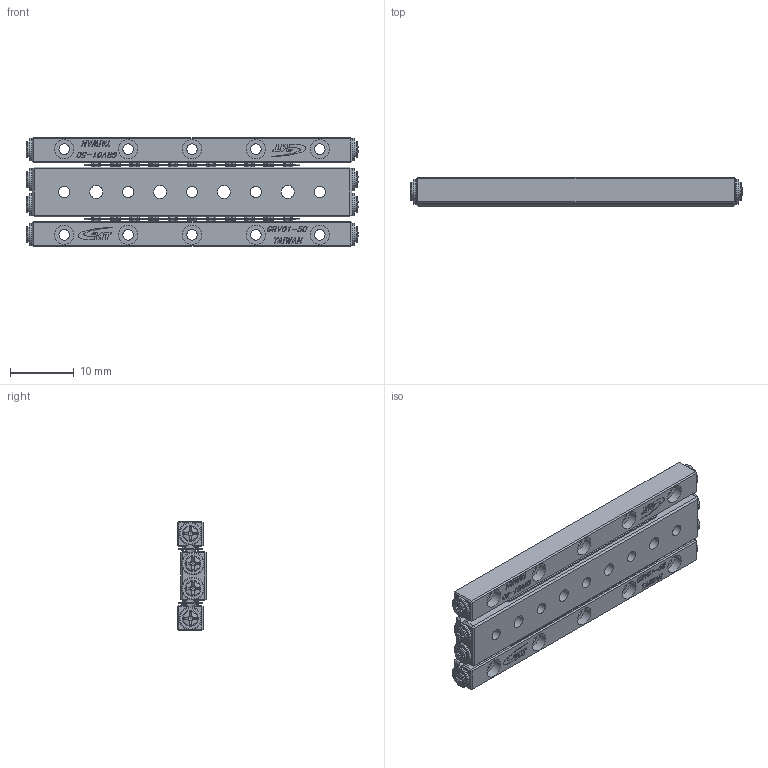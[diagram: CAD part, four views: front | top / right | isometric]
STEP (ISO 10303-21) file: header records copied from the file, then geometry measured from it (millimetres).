
FILE_DESCRIPTION (( 'STEP AP203' ), '1' );
FILE_NAME ('GRD01-50.STEP', '2023-08-09T02:39:13', ( '' ), ( '' ), 'SwSTEP 2.0', 'SolidWorks 2019', '' );
FILE_SCHEMA (( 'CONFIG_CONTROL_DESIGN' ));
Length unit declared in the file: millimetre
Products named in the file (4): GRD01-50-模糊化中軌; GRD01-50; GRV01-50-模糊化軌道; GRV01-50-模糊化保持器組
Assembly tree (5 placements, depth 2):
  GRD01-50
    GRD01-50-模糊化中軌
    GRV01-50-模糊化軌道  x2
    GRV01-50-模糊化保持器組  x2
Bounding box: 51.96 x 4.5 x 17 mm (x, y, z)
Volume: 2787.6 mm3; surface area: 4304.5 mm2
Topology: 5 solids, 13 shells, 2102 faces, 5510 edges, 3588 vertices
Faces by surface type: plane 1388, cylinder 280, bspline 278, cone 80, torus 68, sphere 8
Full cylindrical faces by diameter (mm): 1.32 x4, 1.4 x4, 1.65 x10, 1.8 x5, 2 x4, 2.5 x8, 3 x15, 3.5 x8
Entity records: 43262 total; most frequent: CARTESIAN_POINT 13990, ORIENTED_EDGE 6368, DIRECTION 5130, EDGE_CURVE 3184, VERTEX_POINT 2098, LINE 2026, VECTOR 2026, AXIS2_PLACEMENT_3D 1552
